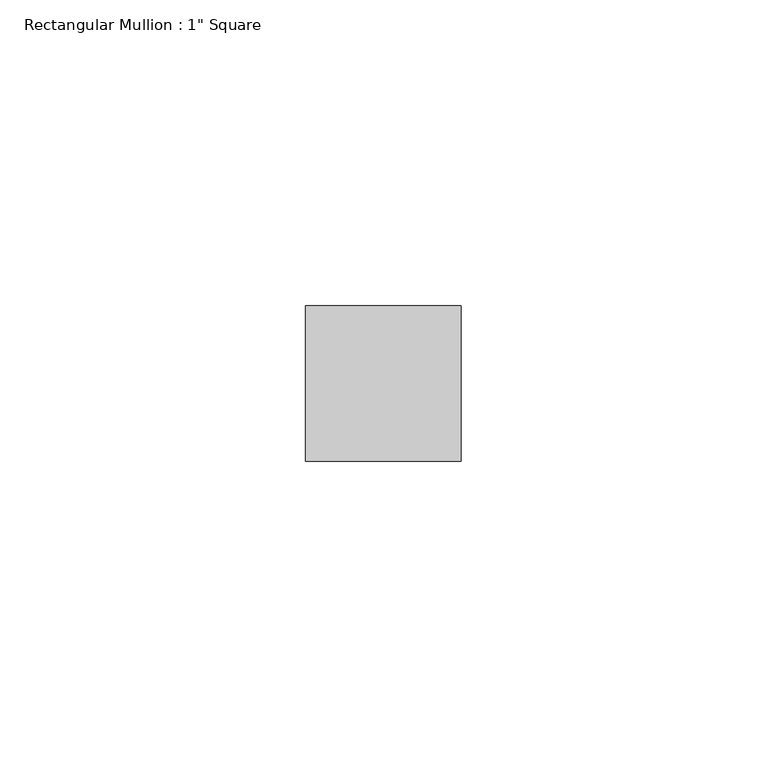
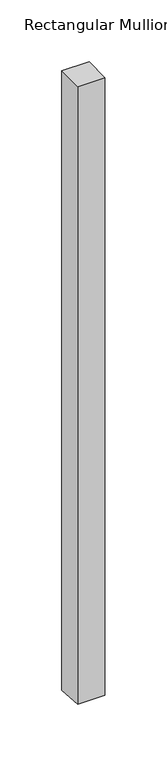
"""IFC4 building model written with IfcOpenShell, lengths in millimetres: member geometry."""

from ifc_helpers import new_model, si_unit, origin, place, context, project, spatial, faceted_brep, source, transform, mapped, element, save


def member_a8f221fd(model_context):
    return source(origin(), model_context, "Body", "Brep", [
        faceted_brep([(0.0, 12.7, 0.0), (-25.4, 12.7, 0.0), (-25.4, -12.7, 0.0), (0.0, -12.7, 0.0), (0.0, 12.7, -610.3584198), (-25.4, 12.7, -610.3142589), (-25.4, -12.7, -608.7974193), (0.0, -12.7, -608.8415802)], [[[0, 1, 2, 3]], [[1, 0, 4, 5]], [[2, 1, 5, 6]], [[3, 2, 6, 7]], [[0, 3, 7, 4]], [[4, 7, 6, 5]]]),
    ])


if __name__ == "__main__":
    model = new_model("IFC4")
    model_context = context("Model", 3, world=origin())
    ifc_project = project(units=[si_unit("LENGTHUNIT", "METRE", prefix="MILLI")], contexts=[model_context])
    site = spatial("IfcSite", under=ifc_project)
    building = spatial("IfcBuilding", under=site)
    placement = place(None, origin())
    member_shape = member_a8f221fd(model_context)
    element("IfcMember", 1, ObjectType="Rectangular Mullion : 1\" Square", at=placement, inside=building, context=model_context, shape_type="MappedRepresentation", body=[
        mapped(member_shape, transform((0.0, 0.0, 0.0), x_axis=(1.0, 0.0, 0.0), y_axis=(0.0, 1.0, 0.0), z_axis=(0.0, 0.0, 1.0))),
    ])
    save(model, "model.ifc")
